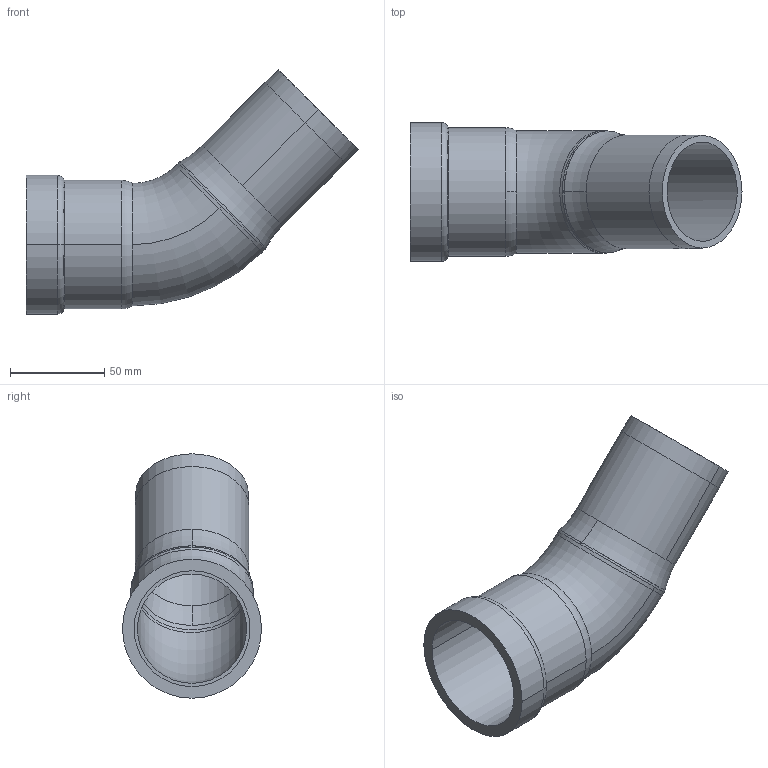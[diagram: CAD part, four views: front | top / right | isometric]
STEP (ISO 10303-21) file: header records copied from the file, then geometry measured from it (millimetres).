
FILE_DESCRIPTION(('Creo Elements/Direct Modeling STEP Export'),'2;1');
FILE_NAME('C9412_2.stp','2020-06-25T13:56:54',(''),(''),'PTC Creo Elements/Direct Modeling STEP processor for AP214 (Solid Model)','PTC Creo Elements/Direct Modeling 19.0C 15-Aug-2015 (C) Parametric Technology GmbH','');
FILE_SCHEMA(('AUTOMOTIVE_DESIGN { 1 0 10303 214 1 1 1 1 }'));
Length unit declared in the file: millimetre
Products named in the file (2): 749005.4
Assembly tree (1 placements, depth 2):
  749005.4
    749005.4
Bounding box: 176.31 x 73.8 x 129.77 mm (x, y, z)
Volume: 136595.8 mm3; surface area: 72393.4 mm2
Topology: 1 solids, 1 shells, 41 faces, 108 edges, 70 vertices
Faces by surface type: torus 14, cylinder 14, cone 8, plane 3, bspline 2
Entity records: 1479 total; most frequent: CARTESIAN_POINT 545, ORIENTED_EDGE 216, DIRECTION 172, EDGE_CURVE 108, AXIS2_PLACEMENT_3D 75, VERTEX_POINT 70, EDGE_LOOP 44, FACE_OUTER_BOUND 41
